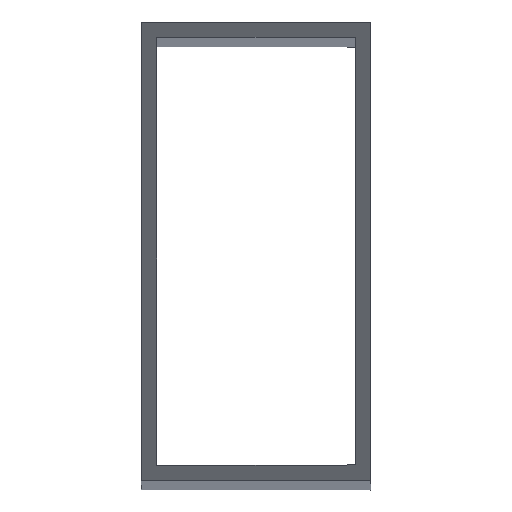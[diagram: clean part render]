
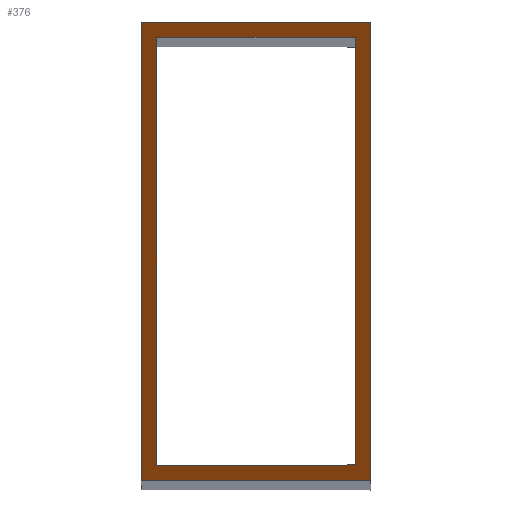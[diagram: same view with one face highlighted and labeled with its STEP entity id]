
A CAD part, top view. The second image highlights one B-rep face of the part: STEP entity #376.
In plain terms, the highlighted planar face has unit normal (-0.707, 0, 0.707).
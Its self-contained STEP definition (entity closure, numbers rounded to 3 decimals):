
#32 = PLANE('',#33);
#33 = AXIS2_PLACEMENT_3D('',#34,#35,#36);
#34 = CARTESIAN_POINT('',(37.5,-75.,-37.5));
#35 = DIRECTION('',(-0.,1.,-0.));
#36 = DIRECTION('',(1.,0.,0.));
#57 = VERTEX_POINT('',#58);
#58 = CARTESIAN_POINT('',(37.5,-75.,1794.5));
#72 = PLANE('',#73);
#73 = AXIS2_PLACEMENT_3D('',#74,#75,#76);
#74 = CARTESIAN_POINT('',(37.5,75.,-37.5));
#75 = DIRECTION('',(-1.,-0.,-0.));
#76 = DIRECTION('',(0.,1.,0.));
#84 = EDGE_CURVE('',#85,#57,#87,.T.);
#85 = VERTEX_POINT('',#86);
#86 = CARTESIAN_POINT('',(-37.5,-75.,1719.5));
#87 = SURFACE_CURVE('',#88,(#92,#99),.PCURVE_S1.);
#88 = LINE('',#89,#90);
#89 = CARTESIAN_POINT('',(-878.5,-75.,878.5));
#90 = VECTOR('',#91,1.);
#91 = DIRECTION('',(0.707,-0.,0.707));
#92 = PCURVE('',#32,#93);
#93 = DEFINITIONAL_REPRESENTATION('',(#94),#98);
#94 = LINE('',#95,#96);
#95 = CARTESIAN_POINT('',(-916.,-916.));
#96 = VECTOR('',#97,1.);
#97 = DIRECTION('',(0.707,-0.707));
#98 = ( GEOMETRIC_REPRESENTATION_CONTEXT(2) 
PARAMETRIC_REPRESENTATION_CONTEXT() REPRESENTATION_CONTEXT('2D SPACE',''
  ) );
#99 = PCURVE('',#100,#105);
#100 = PLANE('',#101);
#101 = AXIS2_PLACEMENT_3D('',#102,#103,#104);
#102 = CARTESIAN_POINT('',(-878.5,0.,878.5));
#103 = DIRECTION('',(0.707,0.,-0.707));
#104 = DIRECTION('',(-0.707,0.,-0.707));
#105 = DEFINITIONAL_REPRESENTATION('',(#106),#110);
#106 = LINE('',#107,#108);
#107 = CARTESIAN_POINT('',(-0.,-75.));
#108 = VECTOR('',#109,1.);
#109 = DIRECTION('',(-1.,-0.));
#110 = ( GEOMETRIC_REPRESENTATION_CONTEXT(2) 
PARAMETRIC_REPRESENTATION_CONTEXT() REPRESENTATION_CONTEXT('2D SPACE',''
  ) );
#126 = PLANE('',#127);
#127 = AXIS2_PLACEMENT_3D('',#128,#129,#130);
#128 = CARTESIAN_POINT('',(-37.5,-75.,-37.5));
#129 = DIRECTION('',(1.,-0.,-0.));
#130 = DIRECTION('',(0.,-1.,0.));
#159 = PLANE('',#160);
#160 = AXIS2_PLACEMENT_3D('',#161,#162,#163);
#161 = CARTESIAN_POINT('',(-37.5,75.,-37.5));
#162 = DIRECTION('',(-0.,-1.,-0.));
#163 = DIRECTION('',(-1.,0.,0.));
#234 = PLANE('',#235);
#235 = AXIS2_PLACEMENT_3D('',#236,#237,#238);
#236 = CARTESIAN_POINT('',(32.5,-70.,-37.5));
#237 = DIRECTION('',(-0.,1.,-0.));
#238 = DIRECTION('',(1.,0.,0.));
#262 = PLANE('',#263);
#263 = AXIS2_PLACEMENT_3D('',#264,#265,#266);
#264 = CARTESIAN_POINT('',(32.5,70.,-37.5));
#265 = DIRECTION('',(-1.,-0.,-0.));
#266 = DIRECTION('',(0.,1.,0.));
#290 = PLANE('',#291);
#291 = AXIS2_PLACEMENT_3D('',#292,#293,#294);
#292 = CARTESIAN_POINT('',(-32.5,70.,-37.5));
#293 = DIRECTION('',(-0.,-1.,-0.));
#294 = DIRECTION('',(-1.,0.,0.));
#316 = PLANE('',#317);
#317 = AXIS2_PLACEMENT_3D('',#318,#319,#320);
#318 = CARTESIAN_POINT('',(-32.5,-70.,-37.5));
#319 = DIRECTION('',(1.,-0.,-0.));
#320 = DIRECTION('',(0.,-1.,0.));
#333 = EDGE_CURVE('',#334,#85,#336,.T.);
#334 = VERTEX_POINT('',#335);
#335 = CARTESIAN_POINT('',(-37.5,75.,1719.5));
#336 = SURFACE_CURVE('',#337,(#341,#348),.PCURVE_S1.);
#337 = LINE('',#338,#339);
#338 = CARTESIAN_POINT('',(-37.5,-37.5,1719.5));
#339 = VECTOR('',#340,1.);
#340 = DIRECTION('',(-0.,-1.,0.));
#341 = PCURVE('',#126,#342);
#342 = DEFINITIONAL_REPRESENTATION('',(#343),#347);
#343 = LINE('',#344,#345);
#344 = CARTESIAN_POINT('',(-37.5,-1757.));
#345 = VECTOR('',#346,1.);
#346 = DIRECTION('',(1.,-0.));
#347 = ( GEOMETRIC_REPRESENTATION_CONTEXT(2) 
PARAMETRIC_REPRESENTATION_CONTEXT() REPRESENTATION_CONTEXT('2D SPACE',''
  ) );
#348 = PCURVE('',#100,#349);
#349 = DEFINITIONAL_REPRESENTATION('',(#350),#354);
#350 = LINE('',#351,#352);
#351 = CARTESIAN_POINT('',(-1189.354,-37.5));
#352 = VECTOR('',#353,1.);
#353 = DIRECTION('',(-0.,-1.));
#354 = ( GEOMETRIC_REPRESENTATION_CONTEXT(2) 
PARAMETRIC_REPRESENTATION_CONTEXT() REPRESENTATION_CONTEXT('2D SPACE',''
  ) );
#376 = ADVANCED_FACE('',(#377,#425),#100,.F.);
#377 = FACE_BOUND('',#378,.T.);
#378 = EDGE_LOOP('',(#379,#402,#423,#424));
#379 = ORIENTED_EDGE('',*,*,#380,.F.);
#380 = EDGE_CURVE('',#381,#57,#383,.T.);
#381 = VERTEX_POINT('',#382);
#382 = CARTESIAN_POINT('',(37.5,75.,1794.5));
#383 = SURFACE_CURVE('',#384,(#388,#395),.PCURVE_S1.);
#384 = LINE('',#385,#386);
#385 = CARTESIAN_POINT('',(37.5,75.,1794.5));
#386 = VECTOR('',#387,1.);
#387 = DIRECTION('',(-0.,-1.,-0.));
#388 = PCURVE('',#100,#389);
#389 = DEFINITIONAL_REPRESENTATION('',(#390),#394);
#390 = LINE('',#391,#392);
#391 = CARTESIAN_POINT('',(-1295.42,75.));
#392 = VECTOR('',#393,1.);
#393 = DIRECTION('',(-0.,-1.));
#394 = ( GEOMETRIC_REPRESENTATION_CONTEXT(2) 
PARAMETRIC_REPRESENTATION_CONTEXT() REPRESENTATION_CONTEXT('2D SPACE',''
  ) );
#395 = PCURVE('',#72,#396);
#396 = DEFINITIONAL_REPRESENTATION('',(#397),#401);
#397 = LINE('',#398,#399);
#398 = CARTESIAN_POINT('',(-0.,-1832.));
#399 = VECTOR('',#400,1.);
#400 = DIRECTION('',(-1.,0.));
#401 = ( GEOMETRIC_REPRESENTATION_CONTEXT(2) 
PARAMETRIC_REPRESENTATION_CONTEXT() REPRESENTATION_CONTEXT('2D SPACE',''
  ) );
#402 = ORIENTED_EDGE('',*,*,#403,.T.);
#403 = EDGE_CURVE('',#381,#334,#404,.T.);
#404 = SURFACE_CURVE('',#405,(#409,#416),.PCURVE_S1.);
#405 = LINE('',#406,#407);
#406 = CARTESIAN_POINT('',(-897.25,75.,859.75));
#407 = VECTOR('',#408,1.);
#408 = DIRECTION('',(-0.707,-0.,-0.707));
#409 = PCURVE('',#100,#410);
#410 = DEFINITIONAL_REPRESENTATION('',(#411),#415);
#411 = LINE('',#412,#413);
#412 = CARTESIAN_POINT('',(26.517,75.));
#413 = VECTOR('',#414,1.);
#414 = DIRECTION('',(1.,-0.));
#415 = ( GEOMETRIC_REPRESENTATION_CONTEXT(2) 
PARAMETRIC_REPRESENTATION_CONTEXT() REPRESENTATION_CONTEXT('2D SPACE',''
  ) );
#416 = PCURVE('',#159,#417);
#417 = DEFINITIONAL_REPRESENTATION('',(#418),#422);
#418 = LINE('',#419,#420);
#419 = CARTESIAN_POINT('',(859.75,-897.25));
#420 = VECTOR('',#421,1.);
#421 = DIRECTION('',(0.707,0.707));
#422 = ( GEOMETRIC_REPRESENTATION_CONTEXT(2) 
PARAMETRIC_REPRESENTATION_CONTEXT() REPRESENTATION_CONTEXT('2D SPACE',''
  ) );
#423 = ORIENTED_EDGE('',*,*,#333,.T.);
#424 = ORIENTED_EDGE('',*,*,#84,.T.);
#425 = FACE_BOUND('',#426,.T.);
#426 = EDGE_LOOP('',(#427,#452,#475,#498));
#427 = ORIENTED_EDGE('',*,*,#428,.F.);
#428 = EDGE_CURVE('',#429,#431,#433,.T.);
#429 = VERTEX_POINT('',#430);
#430 = CARTESIAN_POINT('',(-32.5,-70.,1724.5));
#431 = VERTEX_POINT('',#432);
#432 = CARTESIAN_POINT('',(32.5,-70.,1789.5));
#433 = SURFACE_CURVE('',#434,(#438,#445),.PCURVE_S1.);
#434 = LINE('',#435,#436);
#435 = CARTESIAN_POINT('',(-879.75,-70.,877.25));
#436 = VECTOR('',#437,1.);
#437 = DIRECTION('',(0.707,-0.,0.707));
#438 = PCURVE('',#100,#439);
#439 = DEFINITIONAL_REPRESENTATION('',(#440),#444);
#440 = LINE('',#441,#442);
#441 = CARTESIAN_POINT('',(1.768,-70.));
#442 = VECTOR('',#443,1.);
#443 = DIRECTION('',(-1.,-0.));
#444 = ( GEOMETRIC_REPRESENTATION_CONTEXT(2) 
PARAMETRIC_REPRESENTATION_CONTEXT() REPRESENTATION_CONTEXT('2D SPACE',''
  ) );
#445 = PCURVE('',#234,#446);
#446 = DEFINITIONAL_REPRESENTATION('',(#447),#451);
#447 = LINE('',#448,#449);
#448 = CARTESIAN_POINT('',(-912.25,-914.75));
#449 = VECTOR('',#450,1.);
#450 = DIRECTION('',(0.707,-0.707));
#451 = ( GEOMETRIC_REPRESENTATION_CONTEXT(2) 
PARAMETRIC_REPRESENTATION_CONTEXT() REPRESENTATION_CONTEXT('2D SPACE',''
  ) );
#452 = ORIENTED_EDGE('',*,*,#453,.F.);
#453 = EDGE_CURVE('',#454,#429,#456,.T.);
#454 = VERTEX_POINT('',#455);
#455 = CARTESIAN_POINT('',(-32.5,70.,1724.5));
#456 = SURFACE_CURVE('',#457,(#461,#468),.PCURVE_S1.);
#457 = LINE('',#458,#459);
#458 = CARTESIAN_POINT('',(-32.5,-35.,1724.5));
#459 = VECTOR('',#460,1.);
#460 = DIRECTION('',(-0.,-1.,0.));
#461 = PCURVE('',#100,#462);
#462 = DEFINITIONAL_REPRESENTATION('',(#463),#467);
#463 = LINE('',#464,#465);
#464 = CARTESIAN_POINT('',(-1196.425,-35.));
#465 = VECTOR('',#466,1.);
#466 = DIRECTION('',(-0.,-1.));
#467 = ( GEOMETRIC_REPRESENTATION_CONTEXT(2) 
PARAMETRIC_REPRESENTATION_CONTEXT() REPRESENTATION_CONTEXT('2D SPACE',''
  ) );
#468 = PCURVE('',#316,#469);
#469 = DEFINITIONAL_REPRESENTATION('',(#470),#474);
#470 = LINE('',#471,#472);
#471 = CARTESIAN_POINT('',(-35.,-1762.));
#472 = VECTOR('',#473,1.);
#473 = DIRECTION('',(1.,-0.));
#474 = ( GEOMETRIC_REPRESENTATION_CONTEXT(2) 
PARAMETRIC_REPRESENTATION_CONTEXT() REPRESENTATION_CONTEXT('2D SPACE',''
  ) );
#475 = ORIENTED_EDGE('',*,*,#476,.F.);
#476 = EDGE_CURVE('',#477,#454,#479,.T.);
#477 = VERTEX_POINT('',#478);
#478 = CARTESIAN_POINT('',(32.5,70.,1789.5));
#479 = SURFACE_CURVE('',#480,(#484,#491),.PCURVE_S1.);
#480 = LINE('',#481,#482);
#481 = CARTESIAN_POINT('',(-896.,70.,861.));
#482 = VECTOR('',#483,1.);
#483 = DIRECTION('',(-0.707,-0.,-0.707));
#484 = PCURVE('',#100,#485);
#485 = DEFINITIONAL_REPRESENTATION('',(#486),#490);
#486 = LINE('',#487,#488);
#487 = CARTESIAN_POINT('',(24.749,70.));
#488 = VECTOR('',#489,1.);
#489 = DIRECTION('',(1.,-0.));
#490 = ( GEOMETRIC_REPRESENTATION_CONTEXT(2) 
PARAMETRIC_REPRESENTATION_CONTEXT() REPRESENTATION_CONTEXT('2D SPACE',''
  ) );
#491 = PCURVE('',#290,#492);
#492 = DEFINITIONAL_REPRESENTATION('',(#493),#497);
#493 = LINE('',#494,#495);
#494 = CARTESIAN_POINT('',(863.5,-898.5));
#495 = VECTOR('',#496,1.);
#496 = DIRECTION('',(0.707,0.707));
#497 = ( GEOMETRIC_REPRESENTATION_CONTEXT(2) 
PARAMETRIC_REPRESENTATION_CONTEXT() REPRESENTATION_CONTEXT('2D SPACE',''
  ) );
#498 = ORIENTED_EDGE('',*,*,#499,.F.);
#499 = EDGE_CURVE('',#431,#477,#500,.T.);
#500 = SURFACE_CURVE('',#501,(#505,#512),.PCURVE_S1.);
#501 = LINE('',#502,#503);
#502 = CARTESIAN_POINT('',(32.5,35.,1789.5));
#503 = VECTOR('',#504,1.);
#504 = DIRECTION('',(-0.,1.,-0.));
#505 = PCURVE('',#100,#506);
#506 = DEFINITIONAL_REPRESENTATION('',(#507),#511);
#507 = LINE('',#508,#509);
#508 = CARTESIAN_POINT('',(-1288.349,35.));
#509 = VECTOR('',#510,1.);
#510 = DIRECTION('',(-0.,1.));
#511 = ( GEOMETRIC_REPRESENTATION_CONTEXT(2) 
PARAMETRIC_REPRESENTATION_CONTEXT() REPRESENTATION_CONTEXT('2D SPACE',''
  ) );
#512 = PCURVE('',#262,#513);
#513 = DEFINITIONAL_REPRESENTATION('',(#514),#518);
#514 = LINE('',#515,#516);
#515 = CARTESIAN_POINT('',(-35.,-1827.));
#516 = VECTOR('',#517,1.);
#517 = DIRECTION('',(1.,-0.));
#518 = ( GEOMETRIC_REPRESENTATION_CONTEXT(2) 
PARAMETRIC_REPRESENTATION_CONTEXT() REPRESENTATION_CONTEXT('2D SPACE',''
  ) );
